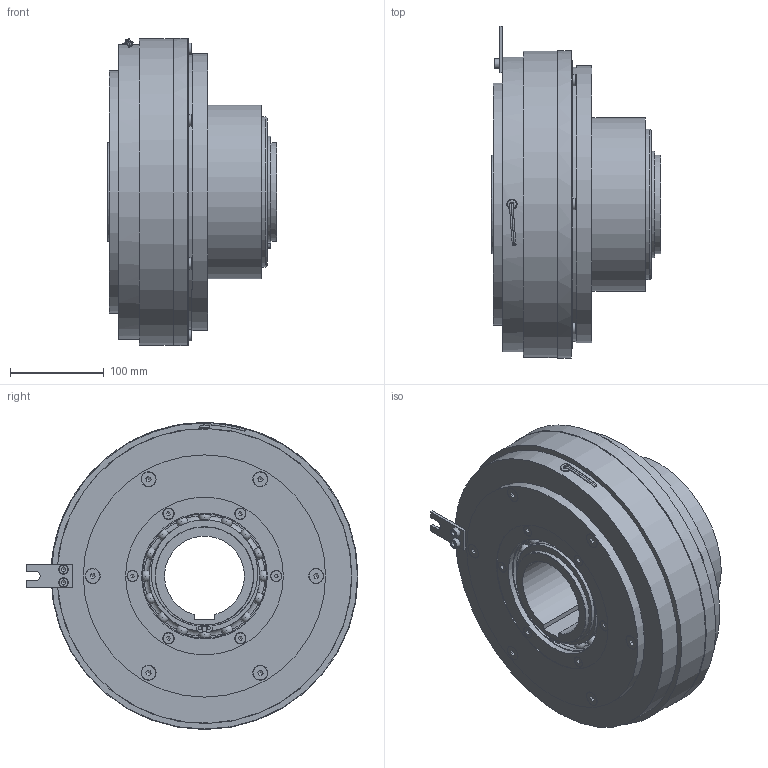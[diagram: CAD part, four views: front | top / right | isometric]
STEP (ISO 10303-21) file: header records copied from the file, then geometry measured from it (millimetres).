
FILE_DESCRIPTION(/* description */ (''),/* implementation_level */ '2;1');
FILE_NAME(/* name */ 'X:\INVENTOR\DISEGNI\08_Freni_Friz_Elettmag_Monodisco\08_26 EMSL_DF\EMSL_DF STEP\08_26_310_41 EMSL310_DF-R@STEP.stp',/* time_stamp */ '2018-04-24T09:54:34+02:00',/* author */ ('stefano'),/* organization */ (''),/* preprocessor_version */ 'ST-DEVELOPER v17',/* originating_system */ 'Autodesk Inventor 2018',/* authorisation */ '');
FILE_SCHEMA (('AUTOMOTIVE_DESIGN { 1 0 10303 214 3 1 1 }'));
Products named in the file (1): 08_26_310_41 EMSL310_DF-R_Substitute_1
Bounding box: 180 x 353.5 x 327 mm (x, y, z)
Volume: 6922719.6 mm3; surface area: 1045867.6 mm2
Topology: 1 solids, 3 shells, 1098 faces, 3616 edges, 2473 vertices
Faces by surface type: cylinder 399, plane 364, torus 166, cone 98, sphere 68, bspline 3
Full cylindrical faces by diameter (mm): 3 x12, 3.5 x4, 4 x3, 8 x10, 8.1 x12, 8.376 x6, 9 x1, 10 x2, 10.106 x6, 11 x1, 11.34 x6, 12 x18, 13 x10, 15 x12, 15.24 x6, 16 x12, 48 x6, 101 x2, 105 x4, 117 x1, 117.8 x4, 122.6 x6, 124 x1, 125 x1, 132.2 x4, 134 x2, 142.4 x6, 160 x4, 165 x1, 168 x1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
Entity records: 49982 total; most frequent: CARTESIAN_POINT 17948, ORIENTED_EDGE 6902, DIRECTION 6579, EDGE_CURVE 3451, AXIS2_PLACEMENT_3D 2812, VERTEX_POINT 2473, CIRCLE 1716, EDGE_LOOP 1486
